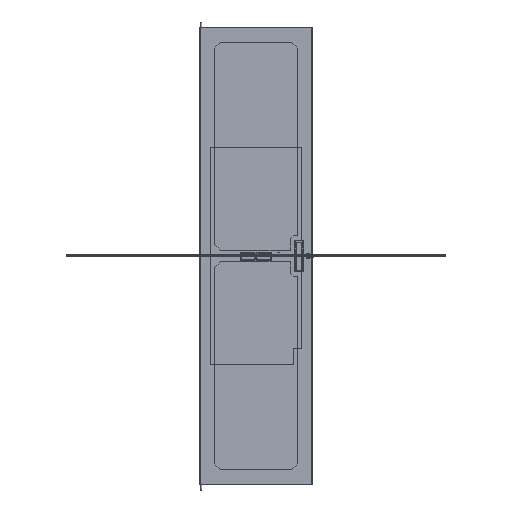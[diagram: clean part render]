
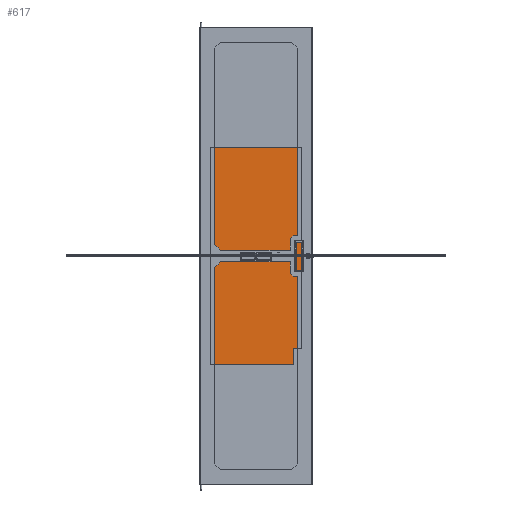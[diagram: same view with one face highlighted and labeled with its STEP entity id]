
A CAD part, front view. The second image highlights one B-rep face of the part: STEP entity #617.
In plain terms, the highlighted planar face has unit normal (0, -1, 0).
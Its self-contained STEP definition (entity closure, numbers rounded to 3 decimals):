
#617 = ADVANCED_FACE( '', ( #911 ), #912, .T. );
#911 = FACE_OUTER_BOUND( '', #1463, .T. );
#912 = PLANE( '', #1464 );
#1463 = EDGE_LOOP( '', ( #2357, #2358, #2359, #2360, #2361, #2362 ) );
#1464 = AXIS2_PLACEMENT_3D( '', #2363, #2364, #2365 );
#2357 = ORIENTED_EDGE( '', *, *, #4217, .T. );
#2358 = ORIENTED_EDGE( '', *, *, #4231, .T. );
#2359 = ORIENTED_EDGE( '', *, *, #4233, .T. );
#2360 = ORIENTED_EDGE( '', *, *, #4225, .T. );
#2361 = ORIENTED_EDGE( '', *, *, #4221, .T. );
#2362 = ORIENTED_EDGE( '', *, *, #4234, .T. );
#2363 = CARTESIAN_POINT( '', ( -200.025, 0., -473.075 ) );
#2364 = DIRECTION( '', ( 0., -1., 0. ) );
#2365 = DIRECTION( '', ( 0., 0., -1. ) );
#4217 = EDGE_CURVE( '', #4889, #4890, #4891, .T. );
#4221 = EDGE_CURVE( '', #4897, #4898, #4899, .T. );
#4225 = EDGE_CURVE( '', #4905, #4897, #4906, .T. );
#4231 = EDGE_CURVE( '', #4890, #4914, #4915, .T. );
#4233 = EDGE_CURVE( '', #4914, #4905, #4917, .T. );
#4234 = EDGE_CURVE( '', #4898, #4889, #4918, .T. );
#4889 = VERTEX_POINT( '', #5982 );
#4890 = VERTEX_POINT( '', #5983 );
#4891 = LINE( '', #5984, #5985 );
#4897 = VERTEX_POINT( '', #5994 );
#4898 = VERTEX_POINT( '', #5995 );
#4899 = LINE( '', #5996, #5997 );
#4905 = VERTEX_POINT( '', #6006 );
#4906 = LINE( '', #6007, #6008 );
#4914 = VERTEX_POINT( '', #6021 );
#4915 = LINE( '', #6022, #6023 );
#4917 = LINE( '', #6026, #6027 );
#4918 = LINE( '', #6028, #6029 );
#5982 = CARTESIAN_POINT( '', ( -200.025, 0., 473.075 ) );
#5983 = CARTESIAN_POINT( '', ( -200.025, 0., -473.075 ) );
#5984 = CARTESIAN_POINT( '', ( -200.025, 0., 473.075 ) );
#5985 = VECTOR( '', #7635, 1000. );
#5994 = CARTESIAN_POINT( '', ( 200.025, 0., -403.225 ) );
#5995 = CARTESIAN_POINT( '', ( 200.025, 0., 473.075 ) );
#5996 = CARTESIAN_POINT( '', ( 200.025, 0., -403.225 ) );
#5997 = VECTOR( '', #7639, 1000. );
#6006 = CARTESIAN_POINT( '', ( 163.513, 0., -403.225 ) );
#6007 = CARTESIAN_POINT( '', ( 163.513, 0., -403.225 ) );
#6008 = VECTOR( '', #7643, 1000. );
#6021 = CARTESIAN_POINT( '', ( 163.513, 0., -473.075 ) );
#6022 = CARTESIAN_POINT( '', ( -200.025, 0., -473.075 ) );
#6023 = VECTOR( '', #7649, 1000. );
#6026 = CARTESIAN_POINT( '', ( 163.513, 0., -473.075 ) );
#6027 = VECTOR( '', #7651, 1000. );
#6028 = CARTESIAN_POINT( '', ( 200.025, 0., 473.075 ) );
#6029 = VECTOR( '', #7652, 1000. );
#7635 = DIRECTION( '', ( 0., 0., -1. ) );
#7639 = DIRECTION( '', ( 0., 0., 1. ) );
#7643 = DIRECTION( '', ( 1., 0., 0. ) );
#7649 = DIRECTION( '', ( 1., 0., 0. ) );
#7651 = DIRECTION( '', ( 0., 0., 1. ) );
#7652 = DIRECTION( '', ( -1., 0., 0. ) );
